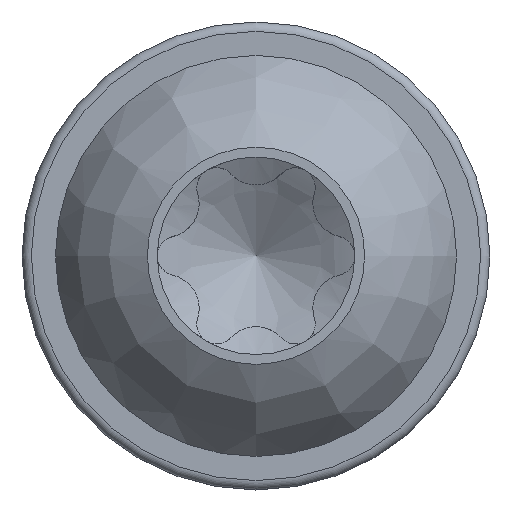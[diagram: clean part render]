
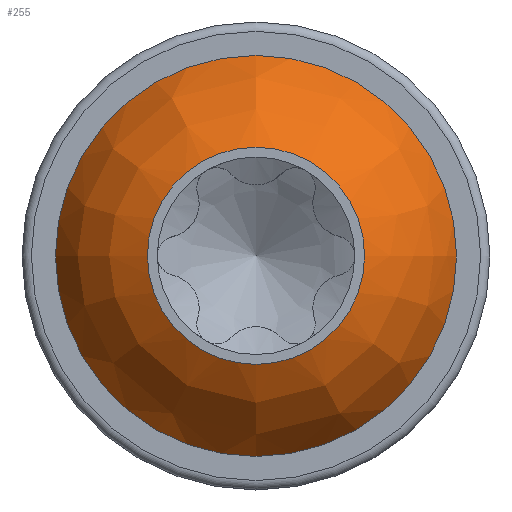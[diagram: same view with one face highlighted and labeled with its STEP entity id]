
A CAD part, top view. The second image highlights one B-rep face of the part: STEP entity #255.
In plain terms, the highlighted free-form (B-spline) face has degree [3, 3] with [4, 7] control points.
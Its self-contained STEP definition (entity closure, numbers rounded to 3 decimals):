
#197=(
BOUNDED_SURFACE()
B_SPLINE_SURFACE(3,3,((#3349,#3350,#3351,#3352,#3353,#3354,#3355),(#3356,
#3357,#3358,#3359,#3360,#3361,#3362),(#3363,#3364,#3365,#3366,#3367,#3368,
#3369),(#3370,#3371,#3372,#3373,#3374,#3375,#3376)),.UNSPECIFIED.,.F.,.T.,
 .F.)
B_SPLINE_SURFACE_WITH_KNOTS((4,4),(1,3,3,3,1),(0.,1.),(-0.5,0.,0.5,1.,1.5),
 .UNSPECIFIED.)
GEOMETRIC_REPRESENTATION_ITEM()
RATIONAL_B_SPLINE_SURFACE(((1.,0.333,0.333,1.,0.333,
0.333,1.),(0.952,0.317,0.317,
0.952,0.317,0.317,0.952),
(0.952,0.317,0.317,0.952,
0.317,0.317,0.952),(1.,0.333,
0.333,1.,0.333,0.333,1.)))
REPRESENTATION_ITEM('')
SURFACE()
);
#232=FACE_BOUND('',#421,.T.);
#233=FACE_BOUND('',#422,.T.);
#255=ADVANCED_FACE('',(#232,#233),#197,.T.);
#421=EDGE_LOOP('',(#579));
#422=EDGE_LOOP('',(#580));
#511=CIRCLE('',#1300,6.857);
#512=CIRCLE('',#1302,3.713);
#579=ORIENTED_EDGE('',*,*,#1049,.F.);
#580=ORIENTED_EDGE('',*,*,#1048,.T.);
#931=VERTEX_POINT('',#3345);
#932=VERTEX_POINT('',#3348);
#1048=EDGE_CURVE('',#931,#931,#511,.T.);
#1049=EDGE_CURVE('',#932,#932,#512,.T.);
#1300=AXIS2_PLACEMENT_3D('',#3344,#1374,#1375);
#1302=AXIS2_PLACEMENT_3D('',#3347,#1378,#1379);
#1374=DIRECTION('',(0.,0.,1.));
#1375=DIRECTION('',(1.,0.,0.));
#1378=DIRECTION('',(0.,0.,1.));
#1379=DIRECTION('',(1.,0.,0.));
#3344=CARTESIAN_POINT('',(0.,0.,1.6));
#3345=CARTESIAN_POINT('',(6.857,0.,1.6));
#3347=CARTESIAN_POINT('',(0.,0.,4.85));
#3348=CARTESIAN_POINT('',(3.713,0.,4.85));
#3349=CARTESIAN_POINT('',(3.713,0.,4.85));
#3350=CARTESIAN_POINT('',(3.713,7.425,4.85));
#3351=CARTESIAN_POINT('',(-3.713,7.425,4.85));
#3352=CARTESIAN_POINT('',(-3.713,0.,4.85));
#3353=CARTESIAN_POINT('',(-3.713,-7.425,4.85));
#3354=CARTESIAN_POINT('',(3.713,-7.425,4.85));
#3355=CARTESIAN_POINT('',(3.713,0.,4.85));
#3356=CARTESIAN_POINT('',(5.159,0.,4.205));
#3357=CARTESIAN_POINT('',(5.159,10.317,4.205));
#3358=CARTESIAN_POINT('',(-5.159,10.317,4.205));
#3359=CARTESIAN_POINT('',(-5.159,0.,4.205));
#3360=CARTESIAN_POINT('',(-5.159,-10.317,4.205));
#3361=CARTESIAN_POINT('',(5.159,-10.317,4.205));
#3362=CARTESIAN_POINT('',(5.159,0.,4.205));
#3363=CARTESIAN_POINT('',(6.26,0.,3.067));
#3364=CARTESIAN_POINT('',(6.26,12.52,3.067));
#3365=CARTESIAN_POINT('',(-6.26,12.52,3.067));
#3366=CARTESIAN_POINT('',(-6.26,0.,3.067));
#3367=CARTESIAN_POINT('',(-6.26,-12.52,3.067));
#3368=CARTESIAN_POINT('',(6.26,-12.52,3.067));
#3369=CARTESIAN_POINT('',(6.26,0.,3.067));
#3370=CARTESIAN_POINT('',(6.857,0.,1.6));
#3371=CARTESIAN_POINT('',(6.857,13.714,1.6));
#3372=CARTESIAN_POINT('',(-6.857,13.714,1.6));
#3373=CARTESIAN_POINT('',(-6.857,0.,1.6));
#3374=CARTESIAN_POINT('',(-6.857,-13.714,1.6));
#3375=CARTESIAN_POINT('',(6.857,-13.714,1.6));
#3376=CARTESIAN_POINT('',(6.857,0.,1.6));
